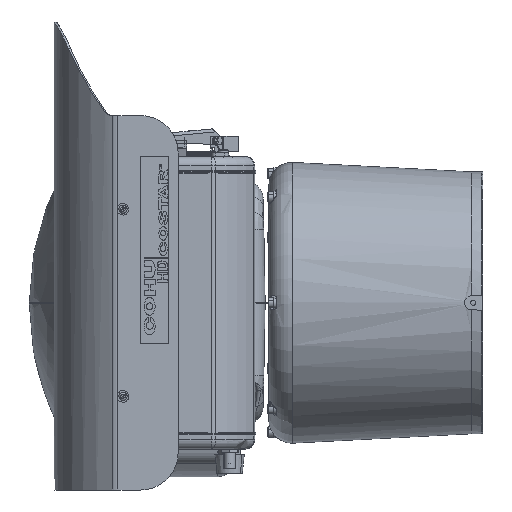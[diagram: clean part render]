
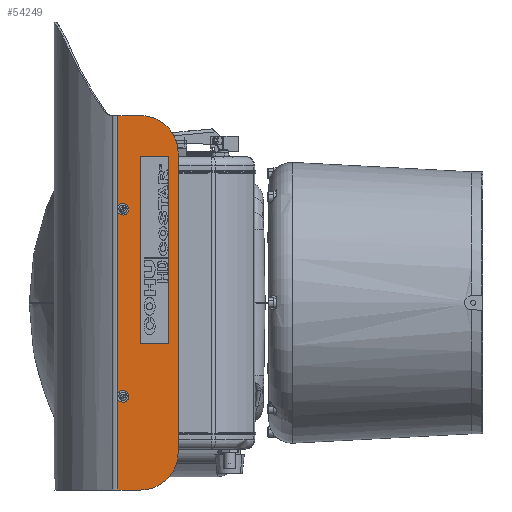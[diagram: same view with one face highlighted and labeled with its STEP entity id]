
A CAD part, left-side view. The second image highlights one B-rep face of the part: STEP entity #54249.
In plain terms, the highlighted planar face has unit normal (-1, 0, 0).
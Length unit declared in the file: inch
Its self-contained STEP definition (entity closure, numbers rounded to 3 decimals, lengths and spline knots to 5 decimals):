
#117 = CARTESIAN_POINT ( 'NONE',  ( -10.202, 8.135, -6. ) ) ;
#1364 = VECTOR ( 'NONE', #52881, 39.37008 ) ;
#1847 = AXIS2_PLACEMENT_3D ( 'NONE', #9522, #73586, #18794 ) ;
#8194 = CARTESIAN_POINT ( 'NONE',  ( -10.202, 9.61, -2.5625 ) ) ;
#8882 = DIRECTION ( 'NONE',  ( -1., 0., 0. ) ) ;
#8908 = DIRECTION ( 'NONE',  ( 0., 1., 0. ) ) ;
#9522 = CARTESIAN_POINT ( 'NONE',  ( -10.202, 9.61, 2.5 ) ) ;
#12130 = AXIS2_PLACEMENT_3D ( 'NONE', #48003, #111572, #57179 ) ;
#14904 = VECTOR ( 'NONE', #82068, 39.37008 ) ;
#15980 = CIRCLE ( 'NONE', #66182, 1. ) ;
#17379 = CARTESIAN_POINT ( 'NONE',  ( -10.202, 9.61, -2.4375 ) ) ;
#17672 = DIRECTION ( 'NONE',  ( -1., 0., 0. ) ) ;
#18794 = DIRECTION ( 'NONE',  ( 0., 0., 1. ) ) ;
#19085 = CARTESIAN_POINT ( 'NONE',  ( -10.202, 9.61, -2.5 ) ) ;
#20468 = CARTESIAN_POINT ( 'NONE',  ( -10.202, 9.135, 5. ) ) ;
#21638 = EDGE_LOOP ( 'NONE', ( #78415, #82206, #85152, #86771, #89029, #89433 ) ) ;
#24934 = EDGE_LOOP ( 'NONE', ( #92481, #92817 ) ) ;
#25283 = CIRCLE ( 'NONE', #12130, 1. ) ;
#28345 = DIRECTION ( 'NONE',  ( 0., 0., 1. ) ) ;
#29883 = VERTEX_POINT ( 'NONE', #60042 ) ;
#31155 = CARTESIAN_POINT ( 'NONE',  ( -10.202, 13.135, -5. ) ) ;
#31392 = VERTEX_POINT ( 'NONE', #20468 ) ;
#31723 = EDGE_LOOP ( 'NONE', ( #89753, #92264 ) ) ;
#32896 = EDGE_CURVE ( 'NONE', #38901, #64063, #98758, .T. ) ;
#36054 = DIRECTION ( 'NONE',  ( -1., 0., 0. ) ) ;
#38796 = VERTEX_POINT ( 'NONE', #117462 ) ;
#38901 = VERTEX_POINT ( 'NONE', #64737 ) ;
#39042 = EDGE_CURVE ( 'NONE', #29883, #31392, #25283, .T. ) ;
#39197 = FACE_BOUND ( 'NONE', #24934, .T. ) ;
#43790 = EDGE_CURVE ( 'NONE', #38796, #66246, #15980, .T. ) ;
#45157 = PLANE ( 'NONE',  #50159 ) ;
#45427 = AXIS2_PLACEMENT_3D ( 'NONE', #90643, #36054, #99822 ) ;
#46068 = CIRCLE ( 'NONE', #72567, 0.0625 ) ;
#47920 = VECTOR ( 'NONE', #85959, 39.37008 ) ;
#48003 = CARTESIAN_POINT ( 'NONE',  ( -10.202, 9.135, 4. ) ) ;
#50159 = AXIS2_PLACEMENT_3D ( 'NONE', #118096, #63831, #8908 ) ;
#50790 = LINE ( 'NONE', #58898, #47920 ) ;
#52330 = EDGE_CURVE ( 'NONE', #66246, #29883, #75298, .T. ) ;
#52881 = DIRECTION ( 'NONE',  ( 0., 0., 1. ) ) ;
#54249 = ADVANCED_FACE ( 'NONE', ( #63420, #111739, #39197 ), #45157, .F. ) ;
#55136 = DIRECTION ( 'NONE',  ( 0., 0., 1. ) ) ;
#55623 = VERTEX_POINT ( 'NONE', #107126 ) ;
#55969 = VERTEX_POINT ( 'NONE', #8194 ) ;
#57179 = DIRECTION ( 'NONE',  ( 0., 0., -1. ) ) ;
#58354 = VERTEX_POINT ( 'NONE', #17379 ) ;
#58898 = CARTESIAN_POINT ( 'NONE',  ( -10.202, 9.81, 5. ) ) ;
#60042 = CARTESIAN_POINT ( 'NONE',  ( -10.202, 8.135, 4. ) ) ;
#63420 = FACE_OUTER_BOUND ( 'NONE', #21638, .T. ) ;
#63629 = LINE ( 'NONE', #31155, #14904 ) ;
#63812 = CARTESIAN_POINT ( 'NONE',  ( -10.202, 9.61, 2.5 ) ) ;
#63831 = DIRECTION ( 'NONE',  ( 1., 0., 0. ) ) ;
#64063 = VERTEX_POINT ( 'NONE', #117588 ) ;
#64737 = CARTESIAN_POINT ( 'NONE',  ( -10.202, 9.74604, -5. ) ) ;
#66182 = AXIS2_PLACEMENT_3D ( 'NONE', #72461, #17672, #81642 ) ;
#66246 = VERTEX_POINT ( 'NONE', #93828 ) ;
#70266 = VERTEX_POINT ( 'NONE', #102205 ) ;
#70489 = EDGE_CURVE ( 'NONE', #38796, #38901, #63629, .T. ) ;
#72461 = CARTESIAN_POINT ( 'NONE',  ( -10.202, 9.135, -4. ) ) ;
#72567 = AXIS2_PLACEMENT_3D ( 'NONE', #63812, #8882, #72960 ) ;
#72960 = DIRECTION ( 'NONE',  ( 0., 0., 1. ) ) ;
#73586 = DIRECTION ( 'NONE',  ( -1., 0., 0. ) ) ;
#74291 = EDGE_CURVE ( 'NONE', #64063, #31392, #50790, .T. ) ;
#75298 = LINE ( 'NONE', #117, #114977 ) ;
#76391 = EDGE_CURVE ( 'NONE', #58354, #55969, #107311, .T. ) ;
#76566 = EDGE_CURVE ( 'NONE', #55969, #58354, #80280, .T. ) ;
#78415 = ORIENTED_EDGE ( 'NONE', *, *, #70489, .F. ) ;
#80280 = CIRCLE ( 'NONE', #118367, 0.0625 ) ;
#81642 = DIRECTION ( 'NONE',  ( 0., 0., -1. ) ) ;
#82068 = DIRECTION ( 'NONE',  ( 0., 1., 0. ) ) ;
#82206 = ORIENTED_EDGE ( 'NONE', *, *, #43790, .T. ) ;
#82680 = EDGE_CURVE ( 'NONE', #70266, #55623, #103264, .T. ) ;
#83070 = DIRECTION ( 'NONE',  ( -1., 0., 0. ) ) ;
#84239 = EDGE_CURVE ( 'NONE', #55623, #70266, #46068, .T. ) ;
#85152 = ORIENTED_EDGE ( 'NONE', *, *, #52330, .T. ) ;
#85959 = DIRECTION ( 'NONE',  ( 0., -1., 0. ) ) ;
#86771 = ORIENTED_EDGE ( 'NONE', *, *, #39042, .T. ) ;
#89029 = ORIENTED_EDGE ( 'NONE', *, *, #74291, .F. ) ;
#89433 = ORIENTED_EDGE ( 'NONE', *, *, #32896, .F. ) ;
#89753 = ORIENTED_EDGE ( 'NONE', *, *, #76391, .F. ) ;
#90643 = CARTESIAN_POINT ( 'NONE',  ( -10.202, 9.61, -2.5 ) ) ;
#92264 = ORIENTED_EDGE ( 'NONE', *, *, #76566, .F. ) ;
#92481 = ORIENTED_EDGE ( 'NONE', *, *, #82680, .F. ) ;
#92817 = ORIENTED_EDGE ( 'NONE', *, *, #84239, .F. ) ;
#93828 = CARTESIAN_POINT ( 'NONE',  ( -10.202, 8.135, -4. ) ) ;
#98350 = CARTESIAN_POINT ( 'NONE',  ( -10.202, 9.74604, -6. ) ) ;
#98758 = LINE ( 'NONE', #98350, #1364 ) ;
#99822 = DIRECTION ( 'NONE',  ( 0., 0., 1. ) ) ;
#102205 = CARTESIAN_POINT ( 'NONE',  ( -10.202, 9.61, 2.5625 ) ) ;
#103264 = CIRCLE ( 'NONE', #1847, 0.0625 ) ;
#107126 = CARTESIAN_POINT ( 'NONE',  ( -10.202, 9.61, 2.4375 ) ) ;
#107311 = CIRCLE ( 'NONE', #45427, 0.0625 ) ;
#111572 = DIRECTION ( 'NONE',  ( -1., 0., 0. ) ) ;
#111739 = FACE_BOUND ( 'NONE', #31723, .T. ) ;
#114977 = VECTOR ( 'NONE', #55136, 39.37008 ) ;
#117462 = CARTESIAN_POINT ( 'NONE',  ( -10.202, 9.135, -5. ) ) ;
#117588 = CARTESIAN_POINT ( 'NONE',  ( -10.202, 9.74604, 5. ) ) ;
#118096 = CARTESIAN_POINT ( 'NONE',  ( -10.202, 9.81, -6. ) ) ;
#118367 = AXIS2_PLACEMENT_3D ( 'NONE', #19085, #83070, #28345 ) ;
